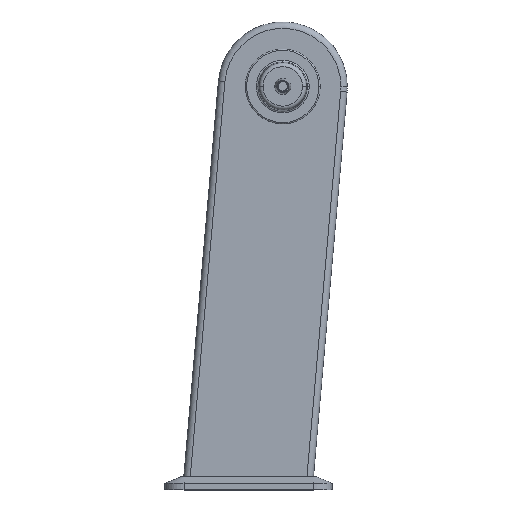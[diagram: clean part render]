
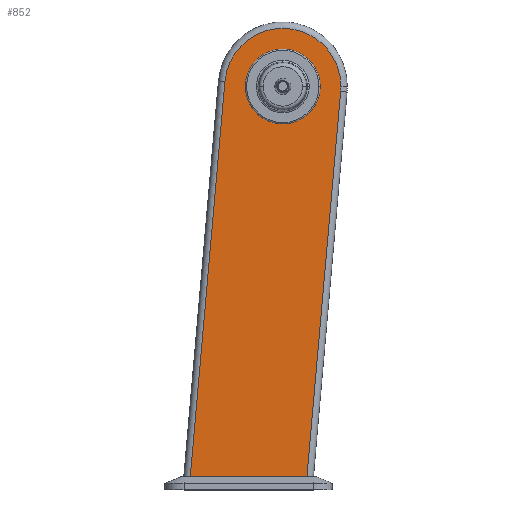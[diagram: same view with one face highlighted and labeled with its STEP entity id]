
A CAD part, top view. The second image highlights one B-rep face of the part: STEP entity #852.
In plain terms, the highlighted planar face has unit normal (0, 0, 1).
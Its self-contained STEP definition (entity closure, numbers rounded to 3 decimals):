
#35 = AXIS2_PLACEMENT_3D ( 'NONE', #1341, #136, #1538 ) ;
#86 = ORIENTED_EDGE ( 'NONE', *, *, #234, .F. ) ;
#132 = CARTESIAN_POINT ( 'NONE',  ( 0., 0., 31.25 ) ) ;
#136 = DIRECTION ( 'NONE',  ( 0., 0., 1. ) ) ;
#234 = EDGE_CURVE ( 'NONE', #809, #1534, #505, .T. ) ;
#290 = VECTOR ( 'NONE', #1982, 1000. ) ;
#309 = DIRECTION ( 'NONE',  ( 0.087, 0.996, 0. ) ) ;
#321 = CARTESIAN_POINT ( 'NONE',  ( 90., 0., 31.25 ) ) ;
#330 = DIRECTION ( 'NONE',  ( 1., 0., 0. ) ) ;
#377 = EDGE_CURVE ( 'NONE', #603, #2496, #2122, .T. ) ;
#379 = PLANE ( 'NONE',  #2242 ) ;
#494 = VERTEX_POINT ( 'NONE', #1296 ) ;
#505 = CIRCLE ( 'NONE', #757, 58. ) ;
#507 = EDGE_CURVE ( 'NONE', #494, #508, #1285, .T. ) ;
#508 = VERTEX_POINT ( 'NONE', #2506 ) ;
#584 = DIRECTION ( 'NONE',  ( 0., 0., 1. ) ) ;
#603 = VERTEX_POINT ( 'NONE', #321 ) ;
#624 = ORIENTED_EDGE ( 'NONE', *, *, #646, .T. ) ;
#646 = EDGE_CURVE ( 'NONE', #771, #494, #2086, .T. ) ;
#675 = VECTOR ( 'NONE', #2142, 1000. ) ;
#680 = CARTESIAN_POINT ( 'NONE',  ( 0., 0., 31.25 ) ) ;
#757 = AXIS2_PLACEMENT_3D ( 'NONE', #680, #2058, #882 ) ;
#758 = ORIENTED_EDGE ( 'NONE', *, *, #507, .T. ) ;
#761 = CARTESIAN_POINT ( 'NONE',  ( 0., -605., 31.25 ) ) ;
#771 = VERTEX_POINT ( 'NONE', #2183 ) ;
#784 = EDGE_CURVE ( 'NONE', #2496, #771, #1955, .T. ) ;
#805 = AXIS2_PLACEMENT_3D ( 'NONE', #132, #1535, #330 ) ;
#809 = VERTEX_POINT ( 'NONE', #1960 ) ;
#813 = ORIENTED_EDGE ( 'NONE', *, *, #377, .T. ) ;
#852 = ADVANCED_FACE ( 'NONE', ( #1238, #1705 ), #379, .T. ) ;
#882 = DIRECTION ( 'NONE',  ( 1., 0., 0. ) ) ;
#900 = DIRECTION ( 'NONE',  ( 0., 0., 1. ) ) ;
#952 = CARTESIAN_POINT ( 'NONE',  ( 58., 0., 31.25 ) ) ;
#966 = AXIS2_PLACEMENT_3D ( 'NONE', #2073, #900, #2278 ) ;
#986 = CARTESIAN_POINT ( 'NONE',  ( 0., 0., 31.25 ) ) ;
#1084 = EDGE_LOOP ( 'NONE', ( #1625, #624, #758, #1809, #813 ) ) ;
#1086 = CIRCLE ( 'NONE', #966, 90. ) ;
#1238 = FACE_OUTER_BOUND ( 'NONE', #1084, .T. ) ;
#1285 = LINE ( 'NONE', #1519, #1815 ) ;
#1296 = CARTESIAN_POINT ( 'NONE',  ( 37.413, -605., 31.25 ) ) ;
#1341 = CARTESIAN_POINT ( 'NONE',  ( 0., 0., 31.25 ) ) ;
#1406 = EDGE_CURVE ( 'NONE', #508, #603, #1086, .T. ) ;
#1425 = CIRCLE ( 'NONE', #805, 58. ) ;
#1519 = CARTESIAN_POINT ( 'NONE',  ( 89.658, -7.844, 31.25 ) ) ;
#1534 = VERTEX_POINT ( 'NONE', #952 ) ;
#1535 = DIRECTION ( 'NONE',  ( 0., 0., 1. ) ) ;
#1538 = DIRECTION ( 'NONE',  ( 1., 0., 0. ) ) ;
#1625 = ORIENTED_EDGE ( 'NONE', *, *, #784, .T. ) ;
#1705 = FACE_BOUND ( 'NONE', #2223, .T. ) ;
#1809 = ORIENTED_EDGE ( 'NONE', *, *, #1406, .T. ) ;
#1815 = VECTOR ( 'NONE', #309, 1000. ) ;
#1955 = LINE ( 'NONE', #2386, #290 ) ;
#1960 = CARTESIAN_POINT ( 'NONE',  ( -58., 0., 31.25 ) ) ;
#1967 = EDGE_CURVE ( 'NONE', #1534, #809, #1425, .T. ) ;
#1974 = DIRECTION ( 'NONE',  ( 1., 0., 0. ) ) ;
#1982 = DIRECTION ( 'NONE',  ( -0.087, -0.996, 0. ) ) ;
#2058 = DIRECTION ( 'NONE',  ( 0., 0., 1. ) ) ;
#2073 = CARTESIAN_POINT ( 'NONE',  ( 0., 0., 31.25 ) ) ;
#2086 = LINE ( 'NONE', #761, #675 ) ;
#2122 = CIRCLE ( 'NONE', #35, 90. ) ;
#2142 = DIRECTION ( 'NONE',  ( 1., 0., 0. ) ) ;
#2183 = CARTESIAN_POINT ( 'NONE',  ( -143.274, -605., 31.25 ) ) ;
#2223 = EDGE_LOOP ( 'NONE', ( #2408, #86 ) ) ;
#2242 = AXIS2_PLACEMENT_3D ( 'NONE', #986, #584, #1974 ) ;
#2272 = CARTESIAN_POINT ( 'NONE',  ( -89.658, 7.844, 31.25 ) ) ;
#2278 = DIRECTION ( 'NONE',  ( 1., 0., 0. ) ) ;
#2386 = CARTESIAN_POINT ( 'NONE',  ( -145.1, -625.872, 31.25 ) ) ;
#2408 = ORIENTED_EDGE ( 'NONE', *, *, #1967, .F. ) ;
#2496 = VERTEX_POINT ( 'NONE', #2272 ) ;
#2506 = CARTESIAN_POINT ( 'NONE',  ( 89.658, -7.844, 31.25 ) ) ;
